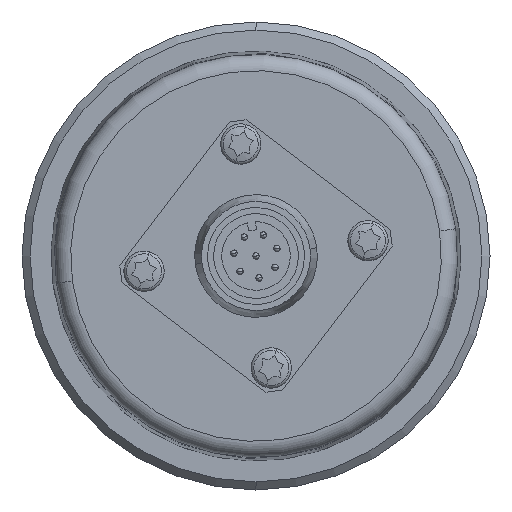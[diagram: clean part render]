
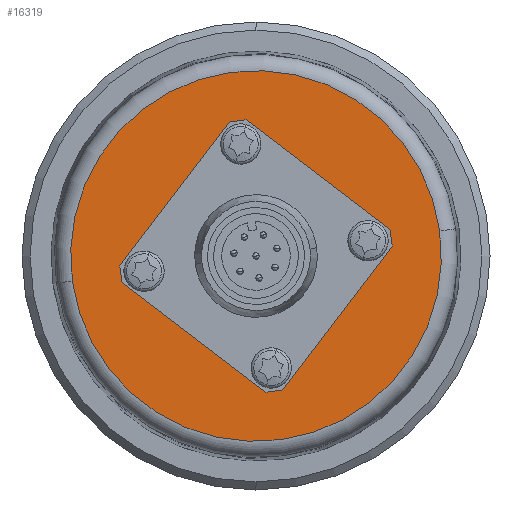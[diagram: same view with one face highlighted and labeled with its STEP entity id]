
A CAD part, left-side view. The second image highlights one B-rep face of the part: STEP entity #16319.
In plain terms, the highlighted planar face has unit normal (-1, 0, 0).
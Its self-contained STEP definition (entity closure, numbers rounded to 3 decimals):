
#2241 = CARTESIAN_POINT ( 'NONE',  ( -21., -11.394, 1.555 ) ) ;
#2242 = DIRECTION ( 'NONE',  ( 0., -0.991, 0.135 ) ) ;
#2243 = DIRECTION ( 'NONE',  ( -1., 0., 0. ) ) ;
#2244 = CARTESIAN_POINT ( 'NONE',  ( -21., 0., 0. ) ) ;
#2245 = AXIS2_PLACEMENT_3D ( 'NONE', #2244, #2243, #2242 ) ;
#2246 = CIRCLE ( 'NONE', #2245, 11.5 ) ;
#2500 = CARTESIAN_POINT ( 'NONE',  ( -21., 11.394, -1.555 ) ) ;
#8826 = EDGE_CURVE ( 'NONE', #8886, #8887, #22354, .T. ) ;
#8886 = VERTEX_POINT ( 'NONE', #22547 ) ;
#8887 = VERTEX_POINT ( 'NONE', #22546 ) ;
#9503 = EDGE_CURVE ( 'NONE', #9583, #9504, #2246, .T. ) ;
#9504 = VERTEX_POINT ( 'NONE', #2241 ) ;
#9583 = VERTEX_POINT ( 'NONE', #2500 ) ;
#11277 = CIRCLE ( 'NONE', #11337, 22.972 ) ;
#11278 = DIRECTION ( 'NONE',  ( 0., 0.991, -0.135 ) ) ;
#11279 = DIRECTION ( 'NONE',  ( 1., 0., 0. ) ) ;
#11280 = AXIS2_PLACEMENT_3D ( 'NONE', #11286, #11279, #11278 ) ;
#11281 = CIRCLE ( 'NONE', #11280, 1.389 ) ;
#11286 = CARTESIAN_POINT ( 'NONE',  ( -21., -13.872, 1.894 ) ) ;
#11323 = FACE_BOUND ( 'NONE', #16313, .T. ) ;
#11324 = FACE_OUTER_BOUND ( 'NONE', #16309, .T. ) ;
#11325 = FACE_BOUND ( 'NONE', #16305, .T. ) ;
#11326 = FACE_BOUND ( 'NONE', #16320, .T. ) ;
#11328 = FACE_BOUND ( 'NONE', #16328, .T. ) ;
#11329 = FACE_BOUND ( 'NONE', #16324, .T. ) ;
#11330 = DIRECTION ( 'NONE',  ( 0., -0.991, 0.135 ) ) ;
#11331 = DIRECTION ( 'NONE',  ( -1., 0., 0. ) ) ;
#11332 = AXIS2_PLACEMENT_3D ( 'NONE', #11338, #11331, #11330 ) ;
#11333 = CIRCLE ( 'NONE', #11332, 11.5 ) ;
#11334 = DIRECTION ( 'NONE',  ( 0., 0.991, -0.135 ) ) ;
#11335 = DIRECTION ( 'NONE',  ( -1., 0., 0. ) ) ;
#11336 = CARTESIAN_POINT ( 'NONE',  ( -21., 0., 0. ) ) ;
#11337 = AXIS2_PLACEMENT_3D ( 'NONE', #11336, #11335, #11334 ) ;
#11338 = CARTESIAN_POINT ( 'NONE',  ( -21., 0., 0. ) ) ;
#11347 = DIRECTION ( 'NONE',  ( 0., 0.991, -0.135 ) ) ;
#11348 = DIRECTION ( 'NONE',  ( 1., 0., 0. ) ) ;
#11349 = CARTESIAN_POINT ( 'NONE',  ( -21., -1.894, -13.872 ) ) ;
#11350 = AXIS2_PLACEMENT_3D ( 'NONE', #11349, #11348, #11347 ) ;
#11351 = CIRCLE ( 'NONE', #11350, 1.389 ) ;
#11352 = DIRECTION ( 'NONE',  ( 0., 0.991, -0.135 ) ) ;
#11353 = DIRECTION ( 'NONE',  ( 1., 0., 0. ) ) ;
#11354 = AXIS2_PLACEMENT_3D ( 'NONE', #11360, #11353, #11352 ) ;
#11355 = CIRCLE ( 'NONE', #11354, 1.389 ) ;
#11356 = DIRECTION ( 'NONE',  ( 0., 0.991, -0.135 ) ) ;
#11357 = DIRECTION ( 'NONE',  ( 1., 0., 0. ) ) ;
#11358 = CARTESIAN_POINT ( 'NONE',  ( -21., 0., 0. ) ) ;
#11359 = AXIS2_PLACEMENT_3D ( 'NONE', #11358, #11357, #11356 ) ;
#11360 = CARTESIAN_POINT ( 'NONE',  ( -21., 13.872, -1.894 ) ) ;
#11361 = PLANE ( 'NONE',  #11359 ) ;
#11589 = DIRECTION ( 'NONE',  ( 0., 0.991, -0.135 ) ) ;
#11590 = DIRECTION ( 'NONE',  ( 1., 0., 0. ) ) ;
#11591 = CARTESIAN_POINT ( 'NONE',  ( -21., 1.894, 13.872 ) ) ;
#11592 = AXIS2_PLACEMENT_3D ( 'NONE', #11591, #11590, #11589 ) ;
#11593 = CIRCLE ( 'NONE', #11592, 1.389 ) ;
#14370 = DIRECTION ( 'NONE',  ( 0., 0.991, -0.135 ) ) ;
#14371 = DIRECTION ( 'NONE',  ( 1., 0., 0. ) ) ;
#14372 = CARTESIAN_POINT ( 'NONE',  ( -21., 1.894, 13.872 ) ) ;
#14373 = AXIS2_PLACEMENT_3D ( 'NONE', #14372, #14371, #14370 ) ;
#14374 = CIRCLE ( 'NONE', #14373, 1.389 ) ;
#14422 = CARTESIAN_POINT ( 'NONE',  ( -21., 0.518, 14.06 ) ) ;
#14423 = CARTESIAN_POINT ( 'NONE',  ( -21., 3.269, 13.684 ) ) ;
#14793 = CIRCLE ( 'NONE', #14844, 1.389 ) ;
#14794 = CARTESIAN_POINT ( 'NONE',  ( -21., -12.496, 1.706 ) ) ;
#14799 = CARTESIAN_POINT ( 'NONE',  ( -21., -15.248, 2.081 ) ) ;
#14837 = DIRECTION ( 'NONE',  ( 0., 0.991, -0.135 ) ) ;
#14838 = DIRECTION ( 'NONE',  ( 1., 0., 0. ) ) ;
#14839 = AXIS2_PLACEMENT_3D ( 'NONE', #14845, #14838, #14837 ) ;
#14840 = CIRCLE ( 'NONE', #14839, 1.389 ) ;
#14841 = DIRECTION ( 'NONE',  ( 0., 0.991, -0.135 ) ) ;
#14842 = DIRECTION ( 'NONE',  ( 1., 0., 0. ) ) ;
#14843 = CARTESIAN_POINT ( 'NONE',  ( -21., -13.872, 1.894 ) ) ;
#14844 = AXIS2_PLACEMENT_3D ( 'NONE', #14843, #14842, #14841 ) ;
#14845 = CARTESIAN_POINT ( 'NONE',  ( -21., -1.894, -13.872 ) ) ;
#14862 = CARTESIAN_POINT ( 'NONE',  ( -21., -0.518, -14.06 ) ) ;
#14871 = CARTESIAN_POINT ( 'NONE',  ( -21., 15.248, -2.081 ) ) ;
#14884 = DIRECTION ( 'NONE',  ( 0., 0.991, -0.135 ) ) ;
#14885 = DIRECTION ( 'NONE',  ( 1., 0., 0. ) ) ;
#14886 = CARTESIAN_POINT ( 'NONE',  ( -21., 13.872, -1.894 ) ) ;
#14887 = AXIS2_PLACEMENT_3D ( 'NONE', #14886, #14885, #14884 ) ;
#14888 = CIRCLE ( 'NONE', #14887, 1.389 ) ;
#14889 = CARTESIAN_POINT ( 'NONE',  ( -21., 12.496, -1.706 ) ) ;
#14900 = CARTESIAN_POINT ( 'NONE',  ( -21., -3.269, -13.684 ) ) ;
#16305 = EDGE_LOOP ( 'NONE', ( #16306, #16307 ) ) ;
#16306 = ORIENTED_EDGE ( 'NONE', *, *, #23232, .T. ) ;
#16307 = ORIENTED_EDGE ( 'NONE', *, *, #16308, .T. ) ;
#16308 = EDGE_CURVE ( 'NONE', #23230, #23227, #11281, .T. ) ;
#16309 = EDGE_LOOP ( 'NONE', ( #16310, #16312 ) ) ;
#16310 = ORIENTED_EDGE ( 'NONE', *, *, #16311, .T. ) ;
#16311 = EDGE_CURVE ( 'NONE', #8887, #8886, #11277, .T. ) ;
#16312 = ORIENTED_EDGE ( 'NONE', *, *, #8826, .T. ) ;
#16313 = EDGE_LOOP ( 'NONE', ( #16314, #16316 ) ) ;
#16314 = ORIENTED_EDGE ( 'NONE', *, *, #16315, .F. ) ;
#16315 = EDGE_CURVE ( 'NONE', #9504, #9583, #11333, .T. ) ;
#16316 = ORIENTED_EDGE ( 'NONE', *, *, #9503, .F. ) ;
#16319 = ADVANCED_FACE ( 'NONE', ( #11326, #11329, #11328, #11325, #11324, #11323 ), #11361, .F. ) ;
#16320 = EDGE_LOOP ( 'NONE', ( #16321, #16322 ) ) ;
#16321 = ORIENTED_EDGE ( 'NONE', *, *, #23254, .T. ) ;
#16322 = ORIENTED_EDGE ( 'NONE', *, *, #16323, .T. ) ;
#16323 = EDGE_CURVE ( 'NONE', #23239, #23253, #11355, .T. ) ;
#16324 = EDGE_LOOP ( 'NONE', ( #16325, #16326 ) ) ;
#16325 = ORIENTED_EDGE ( 'NONE', *, *, #23234, .T. ) ;
#16326 = ORIENTED_EDGE ( 'NONE', *, *, #16327, .T. ) ;
#16327 = EDGE_CURVE ( 'NONE', #23244, #23248, #11351, .T. ) ;
#16328 = EDGE_LOOP ( 'NONE', ( #16329, #16376 ) ) ;
#16329 = ORIENTED_EDGE ( 'NONE', *, *, #23097, .T. ) ;
#16376 = ORIENTED_EDGE ( 'NONE', *, *, #16377, .T. ) ;
#16377 = EDGE_CURVE ( 'NONE', #23105, #23108, #11593, .T. ) ;
#22350 = DIRECTION ( 'NONE',  ( 0., 0.991, -0.135 ) ) ;
#22351 = DIRECTION ( 'NONE',  ( -1., 0., 0. ) ) ;
#22352 = CARTESIAN_POINT ( 'NONE',  ( -21., 0., 0. ) ) ;
#22353 = AXIS2_PLACEMENT_3D ( 'NONE', #22352, #22351, #22350 ) ;
#22354 = CIRCLE ( 'NONE', #22353, 22.972 ) ;
#22546 = CARTESIAN_POINT ( 'NONE',  ( -21., 22.761, -3.107 ) ) ;
#22547 = CARTESIAN_POINT ( 'NONE',  ( -21., -22.761, 3.107 ) ) ;
#23097 = EDGE_CURVE ( 'NONE', #23108, #23105, #14374, .T. ) ;
#23105 = VERTEX_POINT ( 'NONE', #14423 ) ;
#23108 = VERTEX_POINT ( 'NONE', #14422 ) ;
#23227 = VERTEX_POINT ( 'NONE', #14799 ) ;
#23230 = VERTEX_POINT ( 'NONE', #14794 ) ;
#23232 = EDGE_CURVE ( 'NONE', #23227, #23230, #14793, .T. ) ;
#23234 = EDGE_CURVE ( 'NONE', #23248, #23244, #14840, .T. ) ;
#23239 = VERTEX_POINT ( 'NONE', #14871 ) ;
#23244 = VERTEX_POINT ( 'NONE', #14862 ) ;
#23248 = VERTEX_POINT ( 'NONE', #14900 ) ;
#23253 = VERTEX_POINT ( 'NONE', #14889 ) ;
#23254 = EDGE_CURVE ( 'NONE', #23253, #23239, #14888, .T. ) ;
